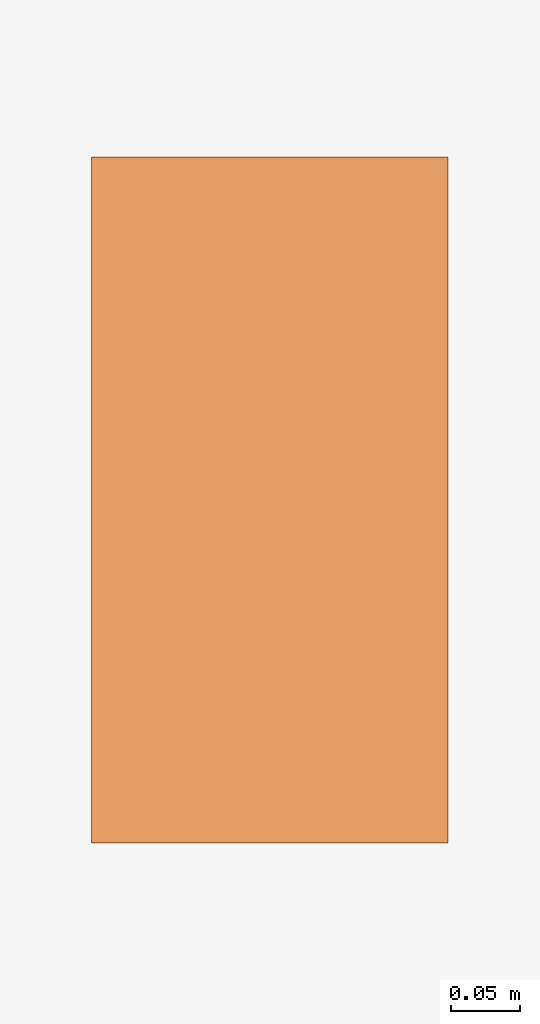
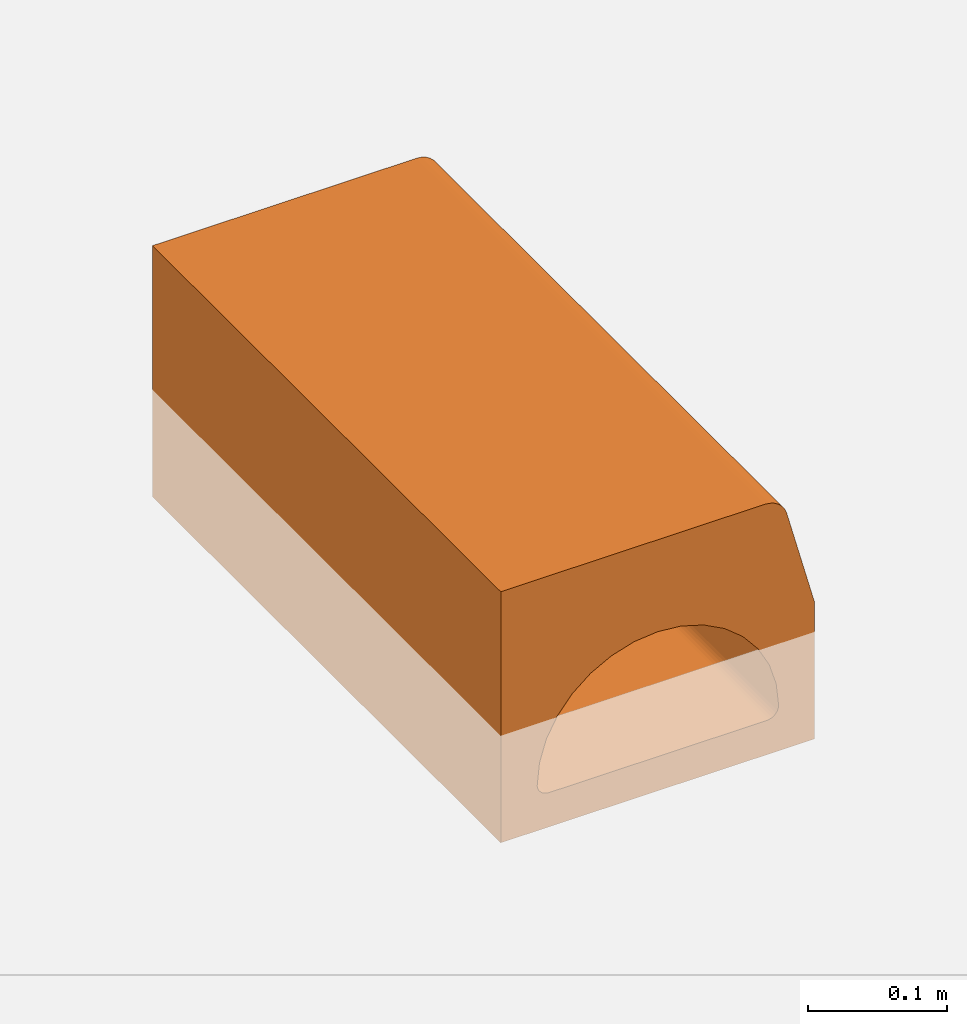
# One storey, part 2 of 2: 1 proxy.
"""IFC2X3 building model written with IfcOpenShell, lengths in millimetres."""

from ifc_helpers import new_model, entity, si_unit, converted_unit, direction, frame, frame_2d, origin, place, context, subcontext, project, spatial, polyline, circle_curve, parameter, trimmed, segment, composite_curve, outline, extrude, source, transform, mapped, material, element, save


model = new_model("IFC2X3")

# Units and contexts
model_context = context("Model", 3, precision=1e-06, world=origin(), true_north=direction((2.0, 6.12303176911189e-17, 1.0)))
context_of_model = context(None, 3, precision=1e-06, world=origin(), true_north=direction((2.0, 6.12303176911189e-17, 1.0)))
body_context = subcontext(model_context, "Body", "Model", "MODEL_VIEW")
ifc_project = project(units=[si_unit("LENGTHUNIT", "METRE", prefix="MILLI"), si_unit("AREAUNIT", "SQUARE_METRE", prefix="MILLI"), si_unit("VOLUMEUNIT", "CUBIC_METRE", prefix="MILLI"), converted_unit("PLANEANGLEUNIT", "DEGREE", entity("IfcRatioMeasure", 0.0174532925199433), si_unit("PLANEANGLEUNIT", "RADIAN"), dimensions=[0, 0, 0, 0, 0, 0, 0]), si_unit("TIMEUNIT", "SECOND")], contexts=[model_context, context_of_model])

# Site, building, storey
site_placement = place(None, origin())
site = spatial("IfcSite", under=ifc_project, at=site_placement, Name="Default", CompositionType="ELEMENT")
building_placement = place(site_placement, origin())
building = spatial("IfcBuilding", under=site, at=building_placement, CompositionType="ELEMENT")
storey_placement = place(building_placement, origin())
storey = spatial("IfcBuildingStorey", under=building, at=storey_placement, Name="Level 1", CompositionType="ELEMENT", Elevation=0.0)

# Proxy
ifc_material = material(Name="ACO Polymer Concrete.")
shared_shape = source(origin(), body_context, "Body", "SweptSolid", [
    extrude(outline(composite_curve([segment(polyline([(-127.652926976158, -162.600721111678), (92.3470730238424, -162.600721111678)]), True, "CONTINUOUS"), segment(polyline([(92.3470730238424, -162.600721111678), (92.3470730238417, 56.0251468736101)]), True, "CONTINUOUS"), segment(trimmed(circle_curve(frame_2d((73.3470730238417, 56.02514687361), x_axis=(0.0, 1.0)), 19.0), [parameter(270.0)], [parameter(345.0)], True, "PARAMETER"), True, "CONTINUOUS"), segment(polyline([(78.2646348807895, 74.3777375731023), (-7.65292697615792, 97.3992788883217)]), True, "CONTINUOUS"), segment(polyline([(-7.65292697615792, 97.3992788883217), (-127.652926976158, 97.3992788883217)]), True, "CONTINUOUS"), segment(polyline([(-127.652926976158, 97.3992788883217), (-127.652926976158, -162.600721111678)]), True, "CONTINUOUS")], self_intersect=False), holes=[composite_curve([segment(trimmed(circle_curve(frame_2d((-88.2084825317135, -32.3942517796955), x_axis=(0.0, 1.0)), 100.052029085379), [parameter(180.0)], [parameter(359.646524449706)], True, "PARAMETER"), False, "CONTINUOUS"), segment(trimmed(circle_curve(frame_2d((-87.6529269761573, -122.461724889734), x_axis=(0.0, 1.0)), 10.0), [parameter(90.0000000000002)], [parameter(176.815261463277)], True, "PARAMETER"), False, "CONTINUOUS"), segment(polyline([(-97.652926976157, -122.461724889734), (-97.6529269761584, 57.6560636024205)]), True, "CONTINUOUS"), segment(trimmed(circle_curve(frame_2d((-87.6529269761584, 57.6560636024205), x_axis=(0.0, 1.0)), 10.0), [parameter(359.646524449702)], [parameter(89.9999999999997)], True, "PARAMETER"), False, "CONTINUOUS")], self_intersect=False)]), frame((32.6007211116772, 0.0, 32.6529269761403), z_axis=(0.0, 1.0, 0.0), x_axis=(0.0, 0.0, 1.0)), (0.0, 0.0, 1.0), 500.0),
])
proxy_placement = place(storey_placement, frame((-15229.1541432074, -316.659250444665, 0.0)))
element("IfcBuildingElementProxy", 1, at=proxy_placement, inside=storey, material=ifc_material, Name="Civil-Drainage-Channel-ACO-KerbDrain-KD200:T0128 - Blind Channel - 500mm LG - 220mm High:T0128 - Blind Channel - 500mm LG - 220mm High", ObjectType="T0128 - Blind Channel - 500mm LG - 220mm High", CompositionType="ELEMENT", context=body_context, shape_type="MappedRepresentation", body=[
    mapped(shared_shape, transform((0.0, 0.0, 0.0), scale=1.0)),
])

save(model, "model.ifc")
